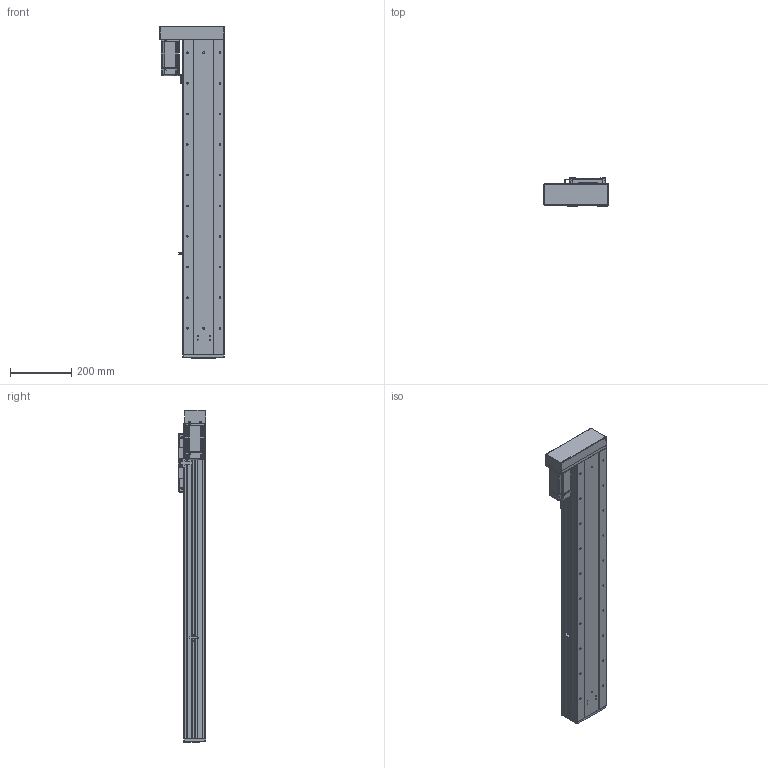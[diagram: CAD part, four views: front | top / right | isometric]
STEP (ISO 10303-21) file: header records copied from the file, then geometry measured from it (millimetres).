
FILE_DESCRIPTION (( 'STEP AP203' ), '1' );
FILE_NAME ('RY140F-L2020-300-LK.SLDASM_750.step', '2021-03-02T08:37:24', ( '盈信电脑' ), ( '东莞市道滘镇水果街19号' ), 'SwSTEP 2.0', 'SolidWorks 2012', '' );
FILE_SCHEMA (( 'CONFIG_CONTROL_DESIGN' ));
Products named in the file (19): RY140F-L2020-300-LK.SLDASM_750; RY140F-酘衵殏萇儂欶(400W); RY140F-左右折电机安装板(400W M5); RY140F-詩湍揤え; RY140F-转折折电机座（7001）; 侐源滅袉蝶; RY140F-672覜茼んえ; 侂狟400W侜督萇儂; 15; 覜茼ん672; RY140F-后盖板(铝件）; RY140F-直连型材铝滑块(16丝杆); RY140F-詩湍幗謫粣; RY100F-詩湍揤踡謫; RY140F-滅鳥奻裔; RY140F-300-LK蛌殏詩湍_750; RY140F-直连型材铝滑块连接座; RY140F-300-LK倰第奻裔啣_750; RY140F-300-LK倰第菁釱_750
Assembly tree (23 placements, depth 3):
  RY140F-L2020-300-LK.SLDASM_750
    RY140F-300-LK倰第菁釱_750
    RY140F-300-LK倰第奻裔啣_750  x2
    RY140F-300-LK蛌殏詩湍_750
    RY140F-直连型材铝滑块连接座
    RY140F-滅鳥奻裔
    RY140F-詩湍幗謫粣
    RY100F-詩湍揤踡謫
    RY140F-直连型材铝滑块(16丝杆)
    RY140F-后盖板(铝件）
    侂狟400W侜督萇儂
      15
    覜茼ん672
    RY140F-672覜茼んえ
    RY140F-詩湍揤え  x2
    侐源滅袉蝶  x4
    RY140F-转折折电机座（7001）
    RY140F-左右折电机安装板(400W M5)
    RY140F-酘衵殏萇儂欶(400W)
Bounding box: 211 x 91 x 1084 mm (x, y, z)
Volume: 4238200.3 mm3; surface area: 1512213 mm2
Topology: 22 solids, 22 shells, 2053 faces, 5597 edges, 3546 vertices
Faces by surface type: cylinder 1000, plane 789, cone 234, bspline 26, torus 4
Entity records: 64747 total; most frequent: CARTESIAN_POINT 13667, DIRECTION 10390, ORIENTED_EDGE 10066, EDGE_CURVE 5033, AXIS2_PLACEMENT_3D 3733, VERTEX_POINT 3286, VECTOR 2924, LINE 2924
